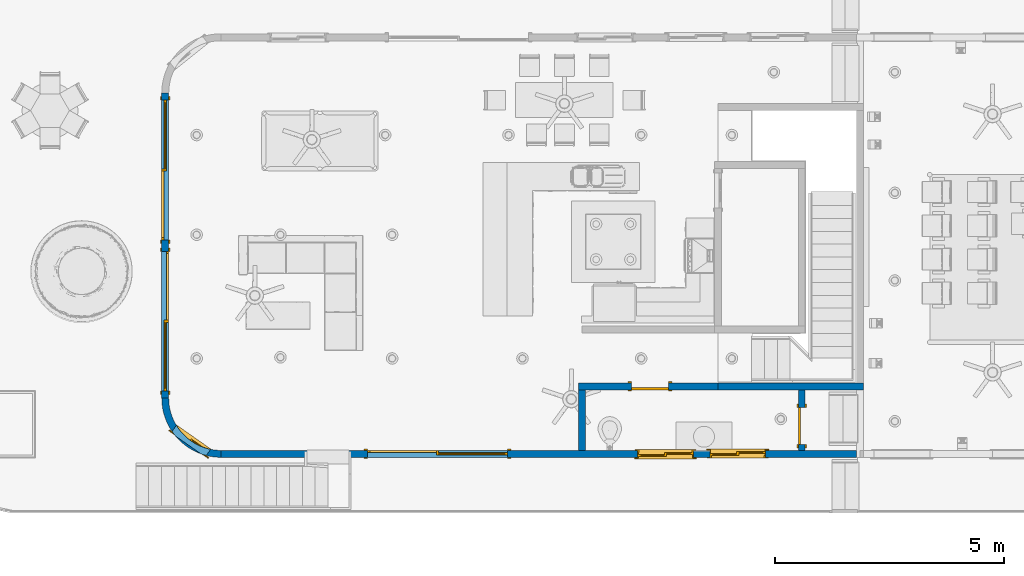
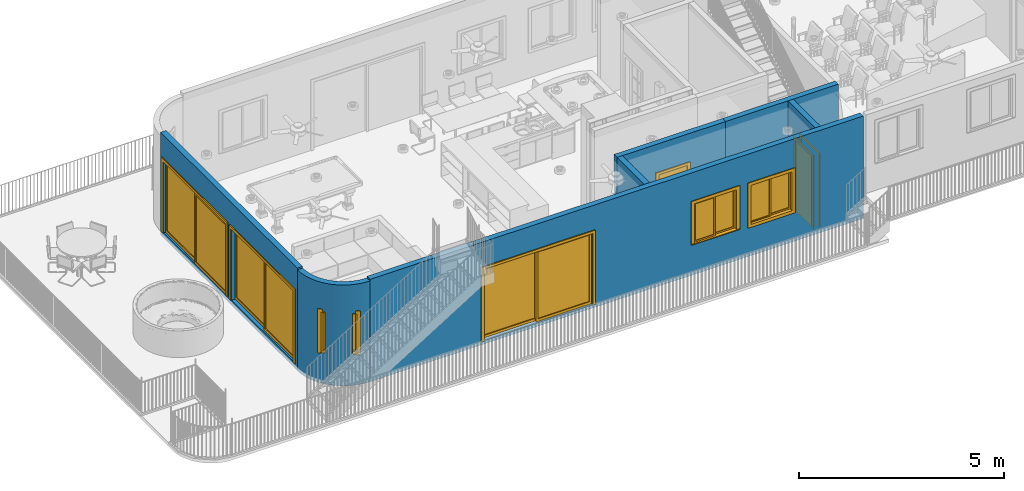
# One storey, part 2 of 21: 7 walls, 5 doors, 3 windows, 8 openings.
"""IFC2X3 building model written with IfcOpenShell, lengths in feet."""

from ifc_helpers import new_model, entity, si_unit, converted_unit, derived_unit, direction, frame, frame_2d, origin, origin_2d_with_axis, place, context, subcontext, project, spatial, polyline, circle_curve, parameter, trimmed, segment, composite_curve, rectangle, outline, extrude, clip, bounded_halfspace, source, transform, mapped, material, material_list, layer, layer_set, layer_usage, type_object, type_shapes, element, fill, save


model = new_model("IFC2X3")

# Units and contexts
model_context = context("Model", 3, precision=0.0001, world=origin(), true_north=direction((6.12303176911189e-17, 1.0)))
body_context = subcontext(model_context, "Body", "Model", "MODEL_VIEW")
ifc_project = project(units=[converted_unit("LENGTHUNIT", "FOOT", entity("IfcRatioMeasure", 0.3048), si_unit("LENGTHUNIT", "METRE"), dimensions=[1, 0, 0, 0, 0, 0, 0]), converted_unit("AREAUNIT", "SQUARE FOOT", entity("IfcRatioMeasure", 0.09290304), si_unit("AREAUNIT", "SQUARE_METRE"), dimensions=[2, 0, 0, 0, 0, 0, 0]), converted_unit("VOLUMEUNIT", "CUBIC FOOT", entity("IfcRatioMeasure", 0.028316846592), si_unit("VOLUMEUNIT", "CUBIC_METRE"), dimensions=[3, 0, 0, 0, 0, 0, 0]), converted_unit("PLANEANGLEUNIT", "DEGREE", entity("IfcRatioMeasure", 0.0174532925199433), si_unit("PLANEANGLEUNIT", "RADIAN"), dimensions=[0, 0, 0, 0, 0, 0, 0]), si_unit("MASSUNIT", "GRAM", prefix="KILO"), derived_unit("MASSDENSITYUNIT", [(si_unit("MASSUNIT", "GRAM", prefix="KILO"), 1), (si_unit("LENGTHUNIT", "METRE"), -3)]), si_unit("TIMEUNIT", "SECOND"), si_unit("FREQUENCYUNIT", "HERTZ"), si_unit("THERMODYNAMICTEMPERATUREUNIT", "DEGREE_CELSIUS"), derived_unit("THERMALTRANSMITTANCEUNIT", [(si_unit("MASSUNIT", "GRAM", prefix="KILO"), 1), (si_unit("THERMODYNAMICTEMPERATUREUNIT", "KELVIN"), -1), (si_unit("TIMEUNIT", "SECOND"), -3)]), derived_unit("VOLUMETRICFLOWRATEUNIT", [(si_unit("LENGTHUNIT", "METRE"), 3), (si_unit("TIMEUNIT", "SECOND"), -1)]), si_unit("ELECTRICCURRENTUNIT", "AMPERE"), si_unit("ELECTRICVOLTAGEUNIT", "VOLT"), si_unit("POWERUNIT", "WATT"), si_unit("FORCEUNIT", "NEWTON"), si_unit("ILLUMINANCEUNIT", "LUX"), si_unit("LUMINOUSFLUXUNIT", "LUMEN"), si_unit("LUMINOUSINTENSITYUNIT", "CANDELA"), derived_unit("USERDEFINED", [(si_unit("MASSUNIT", "GRAM", prefix="KILO"), -1), (si_unit("LENGTHUNIT", "METRE"), -2), (si_unit("TIMEUNIT", "SECOND"), 3), (si_unit("LUMINOUSFLUXUNIT", "LUMEN"), 1)]), derived_unit("LINEARVELOCITYUNIT", [(si_unit("LENGTHUNIT", "METRE"), 1), (si_unit("TIMEUNIT", "SECOND"), -1)]), si_unit("PRESSUREUNIT", "PASCAL"), derived_unit("USERDEFINED", [(si_unit("LENGTHUNIT", "METRE"), -2), (si_unit("MASSUNIT", "GRAM", prefix="KILO"), 1), (si_unit("TIMEUNIT", "SECOND"), -2)])], contexts=[model_context])

# Site, building, storey
site_placement = place(None, origin())
site = spatial("IfcSite", under=ifc_project, at=site_placement, Name="表面", CompositionType="ELEMENT")
building_placement = place(site_placement, origin())
building = spatial("IfcBuilding", under=site, at=building_placement, CompositionType="ELEMENT")
storey_placement = place(building_placement, origin())
storey = spatial("IfcBuildingStorey", under=building, at=storey_placement, Name="Level 1", CompositionType="ELEMENT", Elevation=0.0)

# Wall
ifc_material_1 = material(Name="Paint")
ifc_layer_1 = layer(ifc_material_1, 0.333333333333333)
ifc_material_2 = material(Name="Paints and Coatings")
ifc_layer_2 = layer(ifc_material_2, 0.166666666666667)
ifc_layer_set = layer_set([ifc_layer_1, ifc_layer_2], Name="基本墙:Generic - 4\" Brick")
ifc_layer_usage_1 = layer_usage(ifc_layer_set, "AXIS2", "NEGATIVE", 0.25)
wall_type = type_object("IfcWallType", Name="基本墙:Generic - 4\" Brick", PredefinedType="STANDARD", material=ifc_layer_set)
wall_1_placement = place(storey_placement, frame((5.7984202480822, -8.31760630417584, 0.0)))
element("IfcWallStandardCase", 1, at=wall_1_placement, inside=storey, type_object=wall_type, material=ifc_layer_usage_1, Name="基本墙:Generic - 4\" Brick", ObjectType="基本墙:Generic - 4\" Brick:257", context=body_context, shape_type="Clipping", body=[
    clip(extrude(rectangle(XDim=10.4166666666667, YDim=0.5, at=frame_2d((5.20833333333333, 3.88578058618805e-16), x_axis=(-1.0, 0.0))), origin(), (0.0, 0.0, 1.0), 9.98958333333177), bounded_halfspace(frame((10.4166666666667, 0.0, 9.98958333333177), z_axis=(0.0, 0.0, -1.0), x_axis=(0.0, -1.0, 0.0)), True, frame((10.4166666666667, 0.0, 9.98958333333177)), polyline([(0.0, 0.0), (0.0, 0.249999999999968), (-0.250000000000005, 0.249999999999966), (-0.250000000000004, 0.0), (-8.24999999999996, 0.0), (-8.24999999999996, 0.249999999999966), (-10.4166666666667, 0.249999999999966), (-10.4166666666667, 0.0), (-10.4166666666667, -0.250000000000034), (-4.66666666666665, -0.250000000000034), (-4.16666666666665, -0.250000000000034), (0.0, -0.250000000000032), (0.0, 0.0)]))),
])

# Wall, openings, door, windows
ifc_layer_usage_2 = layer_usage(ifc_layer_set, "AXIS2", "NEGATIVE", 0.25)
wall_2_placement = place(storey_placement, frame((15.9650869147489, -13.1509396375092, 0.0), z_axis=(0.0, 0.0, 1.0), x_axis=(-1.0, 0.0, 0.0)))
wall_2 = element("IfcWallStandardCase", 2, at=wall_2_placement, inside=storey, type_object=wall_type, material=ifc_layer_usage_2, Name="基本墙:Generic - 4\" Brick", ObjectType="基本墙:Generic - 4\" Brick:257", context=body_context, shape_type="SweptSolid", body=[
    extrude(rectangle(XDim=45.5, YDim=0.5, at=frame_2d((23.0, 1.94289029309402e-16), x_axis=(-1.0, 0.0))), origin(), (0.0, 0.0, 1.0), 9.98958333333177),
])
opening_1_placement = place(wall_2_placement, frame((35.25, 0.24999999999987, 0.333333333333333)))
opening_1 = element("IfcOpeningElement", 3, at=opening_1_placement, cuts=wall_2, Name="Sliding-2 panel:72\" x 84\":1", ObjectType="Opening", context=body_context, shape_type="SweptSolid", body=[
    extrude(rectangle(XDim=6.99999999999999, YDim=10.0, at=frame_2d((3.5, 5.0), x_axis=(-1.0, 0.0))), frame((0.0, 0.0, 0.0), z_axis=(0.0, -1.0, 0.0), x_axis=(0.0, 0.0, 1.0)), (0.0, 0.0, 1.0), 0.5),
])
opening_2_placement = place(wall_2_placement, frame((11.9166666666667, -0.25000000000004, 3.0)))
opening_2 = element("IfcOpeningElement", 4, at=opening_2_placement, cuts=wall_2, Name="Slider with Trim:48\" x 48\":1", ObjectType="Opening", context=body_context, shape_type="SweptSolid", body=[
    extrude(rectangle(XDim=3.99999999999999, YDim=3.99999999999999, at=frame_2d((2.0, 2.0), x_axis=(-1.0, 0.0))), frame((0.0, 0.0, 0.0), z_axis=(0.0, 1.0, 0.0), x_axis=(0.0, 0.0, 1.0)), (0.0, 0.0, 1.0), 0.5),
])
opening_3_placement = place(wall_2_placement, frame((10.75, 0.249999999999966, 3.0)))
opening_3 = element("IfcOpeningElement", 5, at=opening_3_placement, cuts=wall_2, Name="Slider with Trim:48\" x 48\":1", ObjectType="Opening", context=body_context, shape_type="SweptSolid", body=[
    extrude(rectangle(XDim=3.99999999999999, YDim=3.99999999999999, at=frame_2d((2.0, 2.0), x_axis=(-1.0, 0.0))), frame((0.0, 0.0, 0.0), z_axis=(0.0, -1.0, 0.0), x_axis=(0.0, 0.0, 1.0)), (0.0, 0.0, 1.0), 0.5),
])
ifc_material_3 = material(Name="Glass")
ifc_material_4 = material(Name="Door - Panel")
ifc_material_5 = material(Name="Door - Frame")
ifc_material_list_1 = material_list([ifc_material_3, ifc_material_4, ifc_material_5])
ifc_material_list_2 = material_list([ifc_material_3, ifc_material_4, ifc_material_5])
door_style_1 = type_object("IfcDoorStyle", Name="72\" x 84\"", ConstructionType="NOTDEFINED", OperationType="NOTDEFINED", ParameterTakesPrecedence=False, Sizeable=False, material=ifc_material_list_2)
shared_shape_1 = source(origin(), body_context, "Body", "SweptSolid", [
    extrude(rectangle(XDim=0.0208333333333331, YDim=4.74999999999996, at=frame_2d((5.55111512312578e-17, 0.0), x_axis=(1.0, 0.0))), frame((7.45833333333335, 0.250000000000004, 0.249999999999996), z_axis=(0.0, 0.0, 1.0), x_axis=(0.0, -1.0, 0.0)), (0.0, 0.0, 1.0), 6.5),
    extrude(outline(polyline([(-2.54166666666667, -3.5), (2.54166666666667, -3.5), (2.54166666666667, 3.5), (-2.54166666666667, 3.5), (-2.54166666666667, -3.5)]), holes=[polyline([(-2.375, -3.25), (-2.375, 3.25), (2.375, 3.25), (2.375, -3.25), (-2.375, -3.25)])]), frame((7.45833333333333, 0.166666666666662, 3.5), z_axis=(0.0, 1.0, 0.0), x_axis=(1.0, 0.0, 0.0)), (0.0, 0.0, 1.0), 0.166666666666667),
    extrude(rectangle(XDim=0.0208333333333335, YDim=4.75000000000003, at=frame_2d((0.0, -4.44089209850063e-16), x_axis=(1.0, 0.0))), frame((2.54166666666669, 0.416666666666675, 0.249999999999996), z_axis=(0.0, 0.0, 1.0), x_axis=(0.0, -1.0, 0.0)), (0.0, 0.0, 1.0), 6.5),
    extrude(outline(polyline([(-3.5, -2.54166666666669), (3.5, -2.54166666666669), (3.5, 2.54166666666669), (-3.5, 2.54166666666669), (-3.5, -2.54166666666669)]), holes=[polyline([(-3.25, -2.37500000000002), (-3.25, 2.37500000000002), (3.25, 2.37500000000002), (3.25, -2.37500000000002), (-3.25, -2.37500000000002)])]), frame((2.54166666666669, 0.333333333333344, 3.5), z_axis=(0.0, 1.0, 0.0), x_axis=(0.0, 0.0, -1.0)), (0.0, 0.0, 1.0), 0.166666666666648),
    extrude(outline(polyline([(-3.5625, -5.25), (3.6875, -5.25), (3.6875, 5.25), (-3.5625, 5.25), (-3.5625, 5.0), (3.4375, 5.0), (3.4375, -5.0), (-3.5625, -5.0), (-3.5625, -5.25)])), frame((5.0, -0.0833333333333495, 3.5625), z_axis=(0.0, 1.0, 0.0), x_axis=(0.0, 0.0, 1.0)), (0.0, 0.0, 1.0), 0.0833333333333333),
    extrude(outline(polyline([(-5.24999999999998, -3.56250000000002), (-5.0, -3.56250000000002), (-5.0, 3.43749999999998), (5.0, 3.43750000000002), (5.0, -3.56249999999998), (5.25000000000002, -3.56249999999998), (5.24999999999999, 3.68750000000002), (-5.25000000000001, 3.68749999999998), (-5.24999999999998, -3.56250000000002)])), frame((5.0, 0.499999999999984, 3.5625), z_axis=(0.0, 1.0, 0.0), x_axis=(-1.0, 0.0, 0.0)), (0.0, 0.0, 1.0), 0.0833333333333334),
])
type_shapes(door_style_1, [shared_shape_1])
door_1_placement = place(opening_1_placement, frame((0.0, 0.0, 0.0), z_axis=(0.0, 0.0, 1.0), x_axis=(-1.0, 0.0, 0.0)))
door_1 = element("IfcDoor", 6, at=door_1_placement, inside=storey, type_object=door_style_1, material=ifc_material_list_1, Name="Sliding-2 panel:72\" x 84\"", ObjectType="72\" x 84\"", OverallHeight=6.99999999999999, OverallWidth=10.0, context=body_context, shape_type="MappedRepresentation", body=[
    mapped(shared_shape_1, transform((0.0, 0.0, 0.0), scale=1.0)),
])
fill(opening_1, door_1)
ifc_material_6 = material(Name="Sash")
ifc_material_7 = material(Name="Trim")
ifc_material_list_3 = material_list([ifc_material_3, ifc_material_6, ifc_material_7])
ifc_material_list_4 = material_list([ifc_material_3, ifc_material_6, ifc_material_7])
window_style_1 = type_object("IfcWindowStyle", Name="48\" x 48\"", ConstructionType="NOTDEFINED", OperationType="NOTDEFINED", ParameterTakesPrecedence=False, Sizeable=False, material=ifc_material_list_4)
shared_shape_2 = source(origin(), body_context, "Body", "SweptSolid", [
    extrude(rectangle(XDim=0.0416666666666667, YDim=1.71875000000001, at=origin_2d_with_axis()), frame((1.06770833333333, 0.21875, 0.208333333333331), z_axis=(0.0, 0.0, 1.0), x_axis=(0.0, -1.0, 0.0)), (0.0, 0.0, 1.0), 3.58333333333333),
    extrude(outline(polyline([(-1.00520833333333, -1.9375), (1.00520833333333, -1.9375), (1.00520833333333, 1.9375), (-1.00520833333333, 1.9375), (-1.00520833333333, -1.9375)]), holes=[polyline([(-0.859374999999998, -1.79166666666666), (-0.859374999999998, 1.79166666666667), (0.859374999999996, 1.79166666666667), (0.859374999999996, -1.79166666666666), (-0.859374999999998, -1.79166666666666)])]), frame((1.06770833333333, 0.145833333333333, 2.0), z_axis=(0.0, 1.0, 0.0), x_axis=(1.0, 0.0, 0.0)), (0.0, 0.0, 1.0), 0.145833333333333),
    extrude(rectangle(XDim=0.104166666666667, YDim=4.45833333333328, at=frame_2d((-2.77555756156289e-17, 0.0), x_axis=(1.0, 0.0))), frame((2.0, 0.552083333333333, 0.0), z_axis=(0.0, 0.0, 1.0), x_axis=(0.0, -1.0, 0.0)), (0.0, 0.0, 1.0), 0.0624999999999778),
    extrude(outline(polyline([(-1.86458333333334, 1.9375), (2.01041666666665, 1.9375), (2.01041666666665, 2.22916666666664), (-2.15624999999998, 2.22916666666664), (-2.15624999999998, -2.22916666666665), (2.01041666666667, -2.22916666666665), (2.01041666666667, -1.93749999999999), (-1.86458333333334, -1.93749999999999), (-1.86458333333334, 1.9375)])), frame((2.0, 0.5, 2.07291666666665), z_axis=(0.0, 1.0, 0.0), x_axis=(0.0, 0.0, -1.0)), (0.0, 0.0, 1.0), 0.0625),
    extrude(outline(polyline([(-2.18749999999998, -2.18749999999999), (2.18749999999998, -2.18749999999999), (2.18749999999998, 2.18749999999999), (-2.18749999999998, 2.18749999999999), (-2.18749999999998, -2.18749999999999)]), holes=[polyline([(-1.89583333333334, -1.89583333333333), (-1.89583333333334, 1.89583333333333), (1.89583333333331, 1.89583333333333), (1.89583333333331, -1.89583333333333), (-1.89583333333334, -1.89583333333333)])]), frame((2.0, -0.0625, 2.0), z_axis=(0.0, 1.0, 0.0), x_axis=(0.0, 0.0, -1.0)), (0.0, 0.0, 1.0), 0.0625),
    extrude(rectangle(XDim=0.0416666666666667, YDim=1.71874999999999, at=frame_2d((1.38777878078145e-17, 0.0), x_axis=(1.0, 0.0))), frame((2.93229166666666, 0.364583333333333, 0.208333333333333), z_axis=(0.0, 0.0, 1.0), x_axis=(0.0, 1.0, 0.0)), (0.0, 0.0, 1.0), 3.58333333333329),
    extrude(outline(polyline([(-1.00520833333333, -1.93749999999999), (1.00520833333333, -1.93749999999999), (1.00520833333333, 1.93749999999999), (-1.00520833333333, 1.93749999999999), (-1.00520833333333, -1.93749999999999)]), holes=[polyline([(-0.859374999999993, -1.79166666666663), (-0.859374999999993, 1.79166666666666), (0.859374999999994, 1.79166666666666), (0.859374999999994, -1.79166666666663), (-0.859374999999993, -1.79166666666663)])]), frame((2.93229166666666, 0.291666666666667, 2.0), z_axis=(0.0, 1.0, 0.0), x_axis=(1.0, 0.0, 0.0)), (0.0, 0.0, 1.0), 0.145833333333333),
    extrude(outline(polyline([(-2.0, -2.0), (2.0, -2.0), (2.0, 2.0), (-2.0, 2.0), (-2.0, -2.0)]), holes=[polyline([(-1.89583333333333, -1.89583333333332), (-1.89583333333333, 1.89583333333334), (1.89583333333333, 1.89583333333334), (1.89583333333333, -1.89583333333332), (-1.89583333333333, -1.89583333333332)])]), frame((2.0, 0.0, 2.0), z_axis=(0.0, 1.0, 0.0), x_axis=(1.0, 0.0, 0.0)), (0.0, 0.0, 1.0), 0.145833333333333),
    extrude(outline(polyline([(-2.0, -2.0), (2.0, -2.0), (2.0, 2.0), (-2.0, 2.0), (-2.0, -2.0)]), holes=[polyline([(-1.9375, -1.93749999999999), (-1.9375, 1.9375), (1.9375, 1.9375), (1.9375, -1.93749999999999), (-1.9375, -1.93749999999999)])]), frame((2.0, 0.145833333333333, 2.0), z_axis=(0.0, 1.0, 0.0), x_axis=(0.0, 0.0, -1.0)), (0.0, 0.0, 1.0), 0.354166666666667),
])
type_shapes(window_style_1, [shared_shape_2])
window_1_placement = place(opening_2_placement, origin())
window_1 = element("IfcWindow", 7, at=window_1_placement, inside=storey, type_object=window_style_1, material=ifc_material_list_3, Name="Slider with Trim:48\" x 48\"", ObjectType="48\" x 48\"", OverallHeight=3.99999999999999, OverallWidth=3.99999999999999, context=body_context, shape_type="MappedRepresentation", body=[
    mapped(shared_shape_2, transform((0.0, 0.0, 0.0), scale=1.0)),
])
fill(opening_2, window_1)
ifc_material_list_5 = material_list([ifc_material_3, ifc_material_6, ifc_material_7])
window_2_placement = place(opening_3_placement, frame((0.0, 0.0, 0.0), z_axis=(0.0, 0.0, 1.0), x_axis=(-1.0, 0.0, 0.0)))
window_2 = element("IfcWindow", 8, at=window_2_placement, inside=storey, type_object=window_style_1, material=ifc_material_list_5, Name="Slider with Trim:48\" x 48\"", ObjectType="48\" x 48\"", OverallHeight=3.99999999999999, OverallWidth=3.99999999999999, context=body_context, shape_type="MappedRepresentation", body=[
    mapped(shared_shape_2, transform((0.0, 0.0, 0.0), scale=1.0)),
])
fill(opening_3, window_2)

# Wall, openings, doors
ifc_layer_usage_3 = layer_usage(ifc_layer_set, "AXIS2", "NEGATIVE", 0.25)
wall_3_placement = place(storey_placement, frame((-33.7849130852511, -9.15093963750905, 0.0), z_axis=(0.0, 0.0, 1.0), x_axis=(0.0, 1.0, 0.0)))
wall_3 = element("IfcWallStandardCase", 9, at=wall_3_placement, inside=storey, type_object=wall_type, material=ifc_layer_usage_3, Name="基本墙:Generic - 4\" Brick", ObjectType="基本墙:Generic - 4\" Brick:257", context=body_context, shape_type="SweptSolid", body=[
    extrude(rectangle(XDim=21.8333333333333, YDim=0.5, at=frame_2d((10.9166666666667, 4.44089209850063e-16), x_axis=(-1.0, 0.0))), origin(), (0.0, 0.0, 1.0), 9.99999999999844),
])
opening_4_placement = place(wall_3_placement, frame((11.3333333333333, -0.250000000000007, 0.5)))
opening_4 = element("IfcOpeningElement", 10, at=opening_4_placement, cuts=wall_3, Name="Sliding-2 panel:72\" x 84\":1", ObjectType="Opening", context=body_context, shape_type="SweptSolid", body=[
    extrude(rectangle(XDim=6.99999999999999, YDim=10.0, at=frame_2d((3.5, 5.0), x_axis=(-1.0, 0.0))), frame((0.0, 0.0, 0.0), z_axis=(0.0, 1.0, 0.0), x_axis=(0.0, 0.0, 1.0)), (0.0, 0.0, 1.0), 0.5),
])
opening_5_placement = place(wall_3_placement, frame((10.5, 0.249999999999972, 0.5)))
opening_5 = element("IfcOpeningElement", 11, at=opening_5_placement, cuts=wall_3, Name="Sliding-2 panel:72\" x 84\":1", ObjectType="Opening", context=body_context, shape_type="SweptSolid", body=[
    extrude(rectangle(XDim=6.99999999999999, YDim=10.0, at=frame_2d((3.5, 5.0), x_axis=(-1.0, 0.0))), frame((0.0, 0.0, 0.0), z_axis=(0.0, -1.0, 0.0), x_axis=(0.0, 0.0, 1.0)), (0.0, 0.0, 1.0), 0.5),
])
ifc_material_list_6 = material_list([ifc_material_3, ifc_material_4, ifc_material_5])
door_2_placement = place(opening_4_placement, origin())
door_2 = element("IfcDoor", 12, at=door_2_placement, inside=storey, type_object=door_style_1, material=ifc_material_list_6, Name="Sliding-2 panel:72\" x 84\"", ObjectType="72\" x 84\"", OverallHeight=6.99999999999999, OverallWidth=10.0, context=body_context, shape_type="MappedRepresentation", body=[
    mapped(shared_shape_1, transform((0.0, 0.0, 0.0), scale=1.0)),
])
fill(opening_4, door_2)
ifc_material_list_7 = material_list([ifc_material_3, ifc_material_4, ifc_material_5])
door_3_placement = place(opening_5_placement, frame((0.0, 0.0, 0.0), z_axis=(0.0, 0.0, 1.0), x_axis=(-1.0, 0.0, 0.0)))
door_3 = element("IfcDoor", 13, at=door_3_placement, inside=storey, type_object=door_style_1, material=ifc_material_list_7, Name="Sliding-2 panel:72\" x 84\"", ObjectType="72\" x 84\"", OverallHeight=6.99999999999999, OverallWidth=10.0, context=body_context, shape_type="MappedRepresentation", body=[
    mapped(shared_shape_1, transform((0.0, 0.0, 0.0), scale=1.0)),
])
fill(opening_5, door_3)

# Wall, opening, window
ifc_layer_usage_4 = layer_usage(ifc_layer_set, "AXIS2", "NEGATIVE", 0.25)
wall_4_placement = place(storey_placement, frame((-33.7849130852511, -9.15093963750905, 0.0)))
wall_4 = element("IfcWallStandardCase", 14, at=wall_4_placement, inside=storey, type_object=wall_type, material=ifc_layer_usage_4, Name="基本墙:Generic - 4\" Brick", ObjectType="基本墙:Generic - 4\" Brick:257", context=body_context, shape_type="SweptSolid", body=[
    extrude(outline(composite_curve([segment(trimmed(circle_curve(frame_2d((4.0, 0.0), x_axis=(1.0, 0.0)), 3.75), [parameter(180.0)], [parameter(270.0)], True, "PARAMETER"), False, "CONTINUOUS"), segment(polyline([(0.25, 0.0), (-0.25, 0.0)]), True, "CONTINUOUS"), segment(trimmed(circle_curve(frame_2d((4.0, 0.0), x_axis=(1.0, 0.0)), 4.25), [parameter(180.0)], [parameter(270.0)], True, "PARAMETER"), True, "CONTINUOUS"), segment(polyline([(4.0, -4.25000000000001), (4.0, -3.75000000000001)]), True, "CONTINUOUS")], self_intersect=False)), origin(), (0.0, 0.0, 1.0), 9.83333333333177),
])
opening_6_placement = place(wall_4_placement, frame((4.00794380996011, -2.59881889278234, 3.0)))
opening_6 = element("IfcOpeningElement", 15, at=opening_6_placement, cuts=wall_4, Name="Slider with Trim:36\" x 48\":1", ObjectType="Opening", context=body_context, shape_type="SweptSolid", body=[
    extrude(rectangle(XDim=3.99999999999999, YDim=3.0, at=frame_2d((2.0, 1.5), x_axis=(-1.0, 0.0))), frame((0.0, 0.0, 0.0), z_axis=(-0.574683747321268, -0.818375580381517, 0.0), x_axis=(0.0, 0.0, 1.0)), (0.0, 0.0, 1.0), 1.98126534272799),
])
ifc_material_list_8 = material_list([ifc_material_3, ifc_material_6, ifc_material_7])
ifc_material_list_9 = material_list([ifc_material_3, ifc_material_6, ifc_material_7])
window_style_2 = type_object("IfcWindowStyle", Name="36\" x 48\"", ConstructionType="NOTDEFINED", OperationType="NOTDEFINED", ParameterTakesPrecedence=False, Sizeable=False, material=ifc_material_list_9)
shared_shape_3 = source(origin(), body_context, "Body", "SweptSolid", [
    extrude(rectangle(XDim=0.0416666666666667, YDim=1.21875000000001, at=origin_2d_with_axis()), frame((0.817708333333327, 0.21875, 0.208333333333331), z_axis=(0.0, 0.0, 1.0), x_axis=(0.0, -1.0, 0.0)), (0.0, 0.0, 1.0), 3.58333333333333),
    extrude(outline(polyline([(-0.755208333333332, -1.9375), (0.755208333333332, -1.9375), (0.755208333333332, 1.9375), (-0.755208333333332, 1.9375), (-0.755208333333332, -1.9375)]), holes=[polyline([(-0.609374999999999, -1.79166666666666), (-0.609374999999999, 1.79166666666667), (0.609374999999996, 1.79166666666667), (0.609374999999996, -1.79166666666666), (-0.609374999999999, -1.79166666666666)])]), frame((0.817708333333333, 0.145833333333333, 2.0), z_axis=(0.0, 1.0, 0.0), x_axis=(1.0, 0.0, 0.0)), (0.0, 0.0, 1.0), 0.145833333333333),
    extrude(rectangle(XDim=0.104166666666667, YDim=3.45833333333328, at=frame_2d((-2.77555756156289e-17, 0.0), x_axis=(1.0, 0.0))), frame((1.50000000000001, 0.552083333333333, 0.0), z_axis=(0.0, 0.0, 1.0), x_axis=(0.0, -1.0, 0.0)), (0.0, 0.0, 1.0), 0.0624999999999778),
    extrude(outline(polyline([(-1.86458333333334, 1.4375), (2.01041666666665, 1.4375), (2.01041666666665, 1.72916666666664), (-2.15624999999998, 1.72916666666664), (-2.15624999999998, -1.72916666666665), (2.01041666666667, -1.72916666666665), (2.01041666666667, -1.43749999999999), (-1.86458333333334, -1.43749999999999), (-1.86458333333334, 1.4375)])), frame((1.5, 0.5, 2.07291666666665), z_axis=(0.0, 1.0, 0.0), x_axis=(0.0, 0.0, -1.0)), (0.0, 0.0, 1.0), 0.0625),
    extrude(outline(polyline([(-2.18749999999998, -1.68749999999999), (2.18749999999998, -1.68749999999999), (2.18749999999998, 1.68749999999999), (-2.18749999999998, 1.68749999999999), (-2.18749999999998, -1.68749999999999)]), holes=[polyline([(-1.89583333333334, -1.39583333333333), (-1.89583333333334, 1.39583333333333), (1.89583333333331, 1.39583333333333), (1.89583333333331, -1.39583333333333), (-1.89583333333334, -1.39583333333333)])]), frame((1.5, -0.0625, 2.0), z_axis=(0.0, 1.0, 0.0), x_axis=(0.0, 0.0, -1.0)), (0.0, 0.0, 1.0), 0.0625),
    extrude(rectangle(XDim=0.0416666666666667, YDim=1.21874999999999, at=frame_2d((1.38777878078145e-17, 0.0), x_axis=(1.0, 0.0))), frame((2.18229166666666, 0.364583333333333, 0.208333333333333), z_axis=(0.0, 0.0, 1.0), x_axis=(0.0, 1.0, 0.0)), (0.0, 0.0, 1.0), 3.58333333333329),
    extrude(outline(polyline([(-0.755208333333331, -1.93749999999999), (0.755208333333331, -1.93749999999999), (0.755208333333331, 1.93749999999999), (-0.755208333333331, 1.93749999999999), (-0.755208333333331, -1.93749999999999)]), holes=[polyline([(-0.609374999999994, -1.79166666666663), (-0.609374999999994, 1.79166666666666), (0.609374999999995, 1.79166666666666), (0.609374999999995, -1.79166666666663), (-0.609374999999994, -1.79166666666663)])]), frame((2.18229166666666, 0.291666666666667, 2.0), z_axis=(0.0, 1.0, 0.0), x_axis=(1.0, 0.0, 0.0)), (0.0, 0.0, 1.0), 0.145833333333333),
    extrude(outline(polyline([(-1.5, -2.0), (1.5, -2.0), (1.5, 2.0), (-1.5, 2.0), (-1.5, -2.0)]), holes=[polyline([(-1.39583333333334, -1.89583333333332), (-1.39583333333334, 1.89583333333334), (1.39583333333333, 1.89583333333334), (1.39583333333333, -1.89583333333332), (-1.39583333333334, -1.89583333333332)])]), frame((1.5, 0.0, 2.0), z_axis=(0.0, 1.0, 0.0), x_axis=(1.0, 0.0, 0.0)), (0.0, 0.0, 1.0), 0.145833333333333),
    extrude(outline(polyline([(-2.0, -1.5), (2.0, -1.5), (2.0, 1.5), (-2.0, 1.5), (-2.0, -1.5)]), holes=[polyline([(-1.9375, -1.43749999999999), (-1.9375, 1.4375), (1.9375, 1.4375), (1.9375, -1.43749999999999), (-1.9375, -1.43749999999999)])]), frame((1.5, 0.145833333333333, 2.0), z_axis=(0.0, 1.0, 0.0), x_axis=(0.0, 0.0, -1.0)), (0.0, 0.0, 1.0), 0.354166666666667),
])
type_shapes(window_style_2, [shared_shape_3])
window_3_placement = place(opening_6_placement, frame((-0.778264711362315, -1.10828405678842, 0.0), z_axis=(0.0, 0.0, 1.0), x_axis=(-0.818375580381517, 0.574683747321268, 0.0)))
window_3 = element("IfcWindow", 16, at=window_3_placement, inside=storey, type_object=window_style_2, material=ifc_material_list_8, Name="Slider with Trim:36\" x 48\"", ObjectType="36\" x 48\"", OverallHeight=3.99999999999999, OverallWidth=3.0, context=body_context, shape_type="MappedRepresentation", body=[
    mapped(shared_shape_3, transform((0.0, 0.0, 0.0), scale=1.0)),
])
fill(opening_6, window_3)

# Wall, opening, door
ifc_layer_usage_5 = layer_usage(ifc_layer_set, "AXIS2", "NEGATIVE", 0.25)
wall_5_placement = place(storey_placement, frame((5.7984202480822, -8.31760630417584, 2.0), z_axis=(0.0, 0.0, 1.0), x_axis=(-1.0, 0.0, 0.0)))
wall_5 = element("IfcWallStandardCase", 17, at=wall_5_placement, inside=storey, type_object=wall_type, material=ifc_layer_usage_5, Name="基本墙:Generic - 4\" Brick", ObjectType="基本墙:Generic - 4\" Brick:257", context=body_context, shape_type="Clipping", body=[
    clip(extrude(rectangle(XDim=10.0, YDim=0.5, at=frame_2d((5.00000000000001, 4.16333634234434e-16), x_axis=(-1.0, 0.0))), origin(), (0.0, 0.0, 1.0), 7.98958333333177), bounded_halfspace(frame((0.0, -0.25, 7.98958333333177), z_axis=(0.0, 0.0, -1.0), x_axis=(0.0, 1.0, 0.0)), True, frame((0.0, -0.25, 7.98958333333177)), polyline([(0.0, 0.0), (10.0, 0.0), (10.0, 0.500000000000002), (9.50000000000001, 0.5), (0.0, 0.5), (0.0, 0.0)]))),
])
opening_7_placement = place(wall_5_placement, frame((3.54166666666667, -0.250000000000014, -2.0)))
opening_7 = element("IfcOpeningElement", 18, at=opening_7_placement, cuts=wall_5, Name="Single-Flush:32\" x 84\":1", ObjectType="Opening", context=body_context, shape_type="SweptSolid", body=[
    extrude(rectangle(XDim=2.66666666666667, YDim=7.0, at=frame_2d((3.5, 1.33333333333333), x_axis=(0.0, 1.0))), frame((0.0, 0.0, 0.0), z_axis=(0.0, 1.0, 0.0), x_axis=(0.0, 0.0, 1.0)), (0.0, 0.0, 1.0), 0.5),
])
ifc_material_list_10 = material_list([ifc_material_5, ifc_material_4])
ifc_material_list_11 = material_list([ifc_material_5, ifc_material_4])
door_style_2 = type_object("IfcDoorStyle", Name="32\" x 84\"", ConstructionType="NOTDEFINED", OperationType="SINGLE_SWING_RIGHT", ParameterTakesPrecedence=False, Sizeable=False, material=ifc_material_list_11)
shared_shape_4 = source(origin(), body_context, "Body", "SweptSolid", [
    extrude(outline(polyline([(-1.58333333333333, -3.6875), (1.58333333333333, -3.6875), (1.58333333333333, 3.5625), (1.33333333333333, 3.5625), (1.33333333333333, -3.43750000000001), (-1.33333333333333, -3.43750000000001), (-1.33333333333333, 3.5625), (-1.58333333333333, 3.5625), (-1.58333333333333, -3.6875)])), frame((1.33333333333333, 0.5, 3.5625), z_axis=(0.0, 1.0, 0.0), x_axis=(1.0, 0.0, 0.0)), (0.0, 0.0, 1.0), 0.0833333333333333),
    extrude(outline(polyline([(-3.6875, -1.58333333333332), (3.5625, -1.58333333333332), (3.5625, -1.33333333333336), (-3.4375, -1.33333333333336), (-3.4375, 1.33333333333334), (3.5625, 1.33333333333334), (3.5625, 1.58333333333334), (-3.6875, 1.58333333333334), (-3.6875, -1.58333333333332)])), frame((1.33333333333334, -0.0833333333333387, 3.5625), z_axis=(0.0, 1.0, 0.0), x_axis=(0.0, 0.0, -1.0)), (0.0, 0.0, 1.0), 0.0833333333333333),
    extrude(rectangle(XDim=0.166666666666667, YDim=2.66666666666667, at=origin_2d_with_axis()), frame((1.33333333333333, 0.416666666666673, 0.0), z_axis=(0.0, 0.0, 1.0), x_axis=(0.0, 1.0, 0.0)), (0.0, 0.0, 1.0), 7.0),
])
type_shapes(door_style_2, [shared_shape_4])
door_4_placement = place(opening_7_placement, origin())
door_4 = element("IfcDoor", 19, at=door_4_placement, inside=storey, type_object=door_style_2, material=ifc_material_list_10, Name="Single-Flush:32\" x 84\"", ObjectType="32\" x 84\"", OverallHeight=7.0, OverallWidth=2.66666666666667, context=body_context, shape_type="MappedRepresentation", body=[
    mapped(shared_shape_4, transform((0.0, 0.0, 0.0), scale=1.0)),
])
fill(opening_7, door_4)

# Wall
ifc_layer_usage_6 = layer_usage(ifc_layer_set, "AXIS2", "NEGATIVE", 0.25)
wall_6_placement = place(storey_placement, frame((-3.95157975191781, -8.56760630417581, 2.0), z_axis=(0.0, 0.0, 1.0), x_axis=(0.0, -1.0, 0.0)))
element("IfcWallStandardCase", 20, at=wall_6_placement, inside=storey, type_object=wall_type, material=ifc_layer_usage_6, Name="基本墙:Generic - 4\" Brick", ObjectType="基本墙:Generic - 4\" Brick:257", context=body_context, shape_type="Clipping", body=[
    clip(extrude(rectangle(XDim=4.33333333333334, YDim=0.5, at=frame_2d((2.16666666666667, 2.4980018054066e-16), x_axis=(-1.0, 0.0))), origin(), (0.0, 0.0, 1.0), 7.98958333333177), bounded_halfspace(frame((0.0, -0.25, 7.98958333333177), z_axis=(0.0, 0.0, -1.0), x_axis=(1.0, 0.0, 0.0)), True, frame((0.0, -0.25, 7.98958333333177)), polyline([(0.0, 0.0), (4.33333333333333, 0.0), (4.33333333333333, 0.499999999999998), (0.0, 0.5), (0.0, 0.0)]))),
])

# Wall, opening, door
ifc_layer_usage_7 = layer_usage(ifc_layer_set, "AXIS2", "NEGATIVE", 0.25)
wall_7_placement = place(storey_placement, frame((11.7984202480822, -12.9009396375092, 2.0), z_axis=(0.0, 0.0, 1.0), x_axis=(0.0, 1.0, 0.0)))
wall_7 = element("IfcWallStandardCase", 21, at=wall_7_placement, inside=storey, type_object=wall_type, material=ifc_layer_usage_7, Name="基本墙:Generic - 4\" Brick", ObjectType="基本墙:Generic - 4\" Brick:257", context=body_context, shape_type="Clipping", body=[
    clip(extrude(rectangle(XDim=4.33333333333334, YDim=0.5, at=frame_2d((2.16666666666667, -3.60822483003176e-16), x_axis=(-1.0, 0.0))), origin(), (0.0, 0.0, 1.0), 7.98958333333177), bounded_halfspace(frame((0.0, -0.249999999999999, 7.98958333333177), z_axis=(0.0, 0.0, -1.0), x_axis=(-1.0, 0.0, 0.0)), True, frame((0.0, -0.249999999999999, 7.98958333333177)), polyline([(0.0, 0.0), (4.33333333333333, 0.0), (4.33333333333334, 0.499999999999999), (0.0, 0.5), (0.0, 0.0)]))),
])
opening_8_placement = place(wall_7_placement, frame((0.416666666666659, -0.250000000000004, -2.0)))
opening_8 = element("IfcOpeningElement", 22, at=opening_8_placement, cuts=wall_7, Name="Single-Flush:32\" x 84\":1", ObjectType="Opening", context=body_context, shape_type="SweptSolid", body=[
    extrude(rectangle(XDim=2.66666666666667, YDim=7.0, at=frame_2d((3.5, 1.33333333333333), x_axis=(0.0, 1.0))), frame((0.0, 0.0, 0.0), z_axis=(0.0, 1.0, 0.0), x_axis=(0.0, 0.0, 1.0)), (0.0, 0.0, 1.0), 0.5),
])
ifc_material_list_12 = material_list([ifc_material_5, ifc_material_4])
door_5_placement = place(opening_8_placement, origin())
door_5 = element("IfcDoor", 23, at=door_5_placement, inside=storey, type_object=door_style_2, material=ifc_material_list_12, Name="Single-Flush:32\" x 84\"", ObjectType="32\" x 84\"", OverallHeight=7.0, OverallWidth=2.66666666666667, context=body_context, shape_type="MappedRepresentation", body=[
    mapped(shared_shape_4, transform((0.0, 0.0, 0.0), scale=1.0)),
])
fill(opening_8, door_5)

save(model, "model.ifc")
